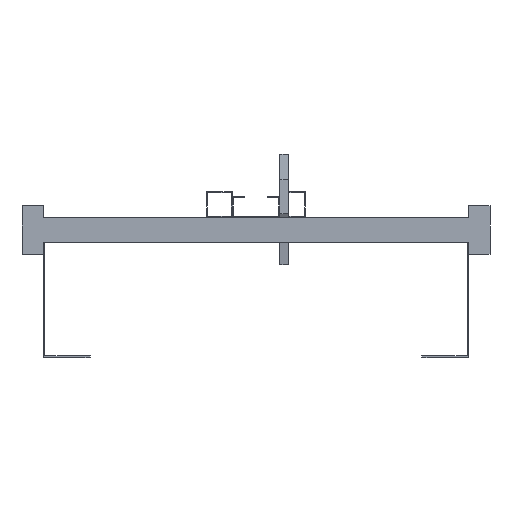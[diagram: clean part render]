
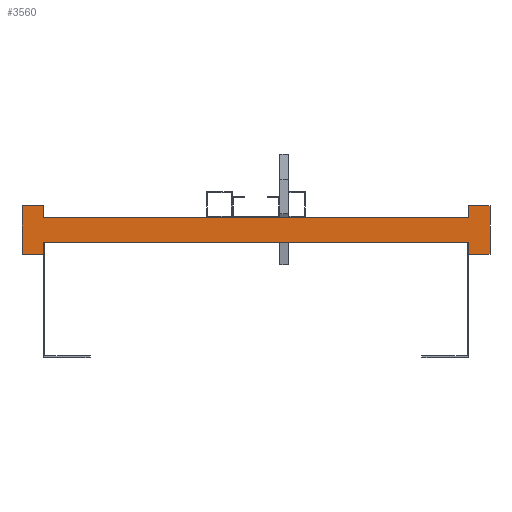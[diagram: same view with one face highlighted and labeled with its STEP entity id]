
A CAD part, front view. The second image highlights one B-rep face of the part: STEP entity #3560.
In plain terms, the highlighted planar face has unit normal (0, -1, 0).
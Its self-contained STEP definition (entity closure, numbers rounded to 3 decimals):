
#1265=DIRECTION('',(0.,0.,1.));
#1266=VECTOR('',#1265,13.5);
#1267=CARTESIAN_POINT('',(250.,0.,-28.5));
#1268=LINE('',#1267,#1266);
#1269=DIRECTION('',(0.,0.,-1.));
#1270=VECTOR('',#1269,13.5);
#1271=CARTESIAN_POINT('',(-250.,0.,-15.));
#1272=LINE('',#1271,#1270);
#1273=DIRECTION('',(-1.,0.,0.));
#1274=VECTOR('',#1273,25.);
#1275=CARTESIAN_POINT('',(-250.,0.,-28.5));
#1276=LINE('',#1275,#1274);
#1277=DIRECTION('',(0.,0.,1.));
#1278=VECTOR('',#1277,57.);
#1279=CARTESIAN_POINT('',(-275.,0.,-28.5));
#1280=LINE('',#1279,#1278);
#1281=DIRECTION('',(1.,0.,0.));
#1282=VECTOR('',#1281,25.);
#1283=CARTESIAN_POINT('',(-275.,0.,28.5));
#1284=LINE('',#1283,#1282);
#1285=DIRECTION('',(0.,0.,-1.));
#1286=VECTOR('',#1285,13.5);
#1287=CARTESIAN_POINT('',(-250.,0.,28.5));
#1288=LINE('',#1287,#1286);
#1289=DIRECTION('',(0.,0.,1.));
#1290=VECTOR('',#1289,13.5);
#1291=CARTESIAN_POINT('',(250.,0.,15.));
#1292=LINE('',#1291,#1290);
#1293=DIRECTION('',(1.,0.,0.));
#1294=VECTOR('',#1293,25.);
#1295=CARTESIAN_POINT('',(250.,0.,28.5));
#1296=LINE('',#1295,#1294);
#1297=DIRECTION('',(0.,0.,-1.));
#1298=VECTOR('',#1297,57.);
#1299=CARTESIAN_POINT('',(275.,0.,28.5));
#1300=LINE('',#1299,#1298);
#1301=DIRECTION('',(-1.,0.,0.));
#1302=VECTOR('',#1301,25.);
#1303=CARTESIAN_POINT('',(275.,0.,-28.5));
#1304=LINE('',#1303,#1302);
#1305=DIRECTION('',(1.,0.,0.));
#1306=VECTOR('',#1305,500.);
#1307=CARTESIAN_POINT('',(-250.,0.,-15.));
#1308=LINE('',#1307,#1306);
#1317=DIRECTION('',(1.,0.,0.));
#1318=VECTOR('',#1317,500.);
#1319=CARTESIAN_POINT('',(-250.,0.,15.));
#1320=LINE('',#1319,#1318);
#1457=CARTESIAN_POINT('',(-275.,0.,28.5));
#1458=CARTESIAN_POINT('',(-250.,0.,28.5));
#1459=VERTEX_POINT('',#1457);
#1460=VERTEX_POINT('',#1458);
#1461=CARTESIAN_POINT('',(-250.,0.,-28.5));
#1462=CARTESIAN_POINT('',(-275.,0.,-28.5));
#1463=VERTEX_POINT('',#1461);
#1464=VERTEX_POINT('',#1462);
#1465=CARTESIAN_POINT('',(275.,0.,28.5));
#1466=CARTESIAN_POINT('',(275.,0.,-28.5));
#1467=VERTEX_POINT('',#1465);
#1468=VERTEX_POINT('',#1466);
#1469=CARTESIAN_POINT('',(250.,0.,-28.5));
#1470=VERTEX_POINT('',#1469);
#1471=CARTESIAN_POINT('',(250.,0.,28.5));
#1472=VERTEX_POINT('',#1471);
#1489=CARTESIAN_POINT('',(-250.,0.,-15.));
#1491=VERTEX_POINT('',#1489);
#1493=CARTESIAN_POINT('',(-250.,0.,15.));
#1495=VERTEX_POINT('',#1493);
#1497=CARTESIAN_POINT('',(250.,0.,-15.));
#1499=VERTEX_POINT('',#1497);
#1501=CARTESIAN_POINT('',(250.,0.,15.));
#1503=VERTEX_POINT('',#1501);
#3536=CARTESIAN_POINT('',(0.,0.,0.));
#3537=DIRECTION('',(0.,1.,0.));
#3538=DIRECTION('',(1.,0.,0.));
#3539=AXIS2_PLACEMENT_3D('',#3536,#3537,#3538);
#3540=PLANE('',#3539);
#3541=ORIENTED_EDGE('',*,*,#2185,.T.);
#3543=ORIENTED_EDGE('',*,*,#3542,.F.);
#3544=ORIENTED_EDGE('',*,*,#1933,.T.);
#3545=ORIENTED_EDGE('',*,*,#3042,.T.);
#3547=ORIENTED_EDGE('',*,*,#3546,.T.);
#3548=ORIENTED_EDGE('',*,*,#3527,.T.);
#3549=ORIENTED_EDGE('',*,*,#1941,.T.);
#3551=ORIENTED_EDGE('',*,*,#3550,.T.);
#3552=ORIENTED_EDGE('',*,*,#2177,.T.);
#3554=ORIENTED_EDGE('',*,*,#3553,.T.);
#3556=ORIENTED_EDGE('',*,*,#3555,.T.);
#3557=ORIENTED_EDGE('',*,*,#2943,.T.);
#3558=EDGE_LOOP('',(#3541,#3543,#3544,#3545,#3547,#3548,#3549,#3551,#3552,#3554,
#3556,#3557));
#3559=FACE_OUTER_BOUND('',#3558,.F.);
#1933=EDGE_CURVE('',#1491,#1463,#1272,.T.);
#1941=EDGE_CURVE('',#1460,#1495,#1288,.T.);
#2177=EDGE_CURVE('',#1503,#1472,#1292,.T.);
#2185=EDGE_CURVE('',#1470,#1499,#1268,.T.);
#2943=EDGE_CURVE('',#1468,#1470,#1304,.T.);
#3042=EDGE_CURVE('',#1463,#1464,#1276,.T.);
#3527=EDGE_CURVE('',#1459,#1460,#1284,.T.);
#3542=EDGE_CURVE('',#1491,#1499,#1308,.T.);
#3546=EDGE_CURVE('',#1464,#1459,#1280,.T.);
#3550=EDGE_CURVE('',#1495,#1503,#1320,.T.);
#3553=EDGE_CURVE('',#1472,#1467,#1296,.T.);
#3555=EDGE_CURVE('',#1467,#1468,#1300,.T.);
#3560=ADVANCED_FACE('',(#3559),#3540,.F.);
